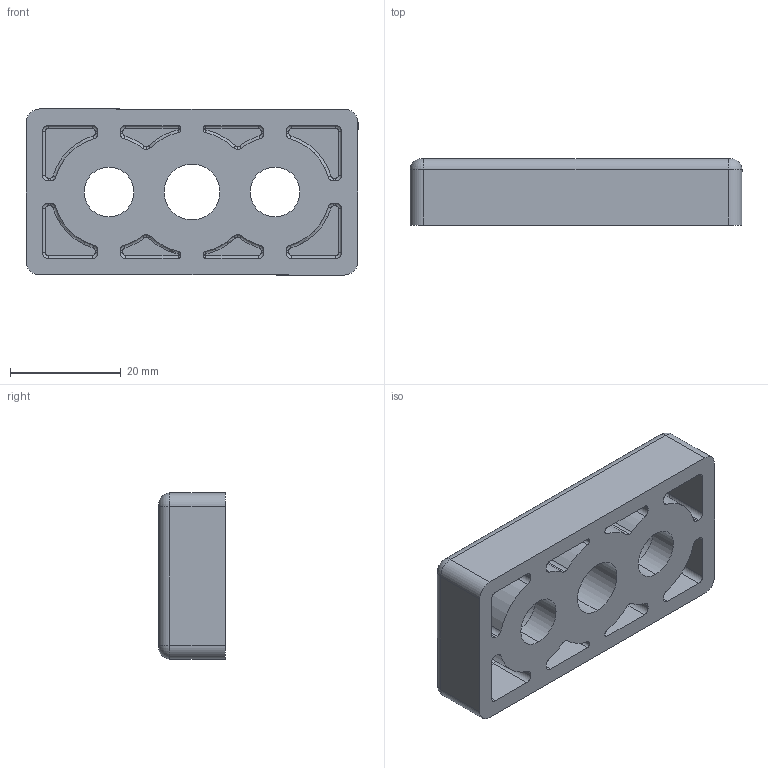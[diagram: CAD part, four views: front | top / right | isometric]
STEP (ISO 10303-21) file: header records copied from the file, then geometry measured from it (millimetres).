
FILE_DESCRIPTION (( 'STEP AP203' ), '1' );
FILE_NAME ('10137_FUS8.6030M12.STEP', '2018-05-24T09:28:10', ( '' ), ( '' ), 'SwSTEP 2.0', 'SolidWorks 2017', '' );
FILE_SCHEMA (( 'CONFIG_CONTROL_DESIGN' ));
Length unit declared in the file: millimetre
Products named in the file (1): 10137_FUS8.6030M12
Bounding box: 60 x 12 x 30 mm (x, y, z)
Volume: 15361.5 mm3; surface area: 8346.2 mm2
Topology: 1 solids, 1 shells, 213 faces, 519 edges, 313 vertices
Faces by surface type: cylinder 100, torus 56, plane 44, sphere 11, cone 2
Entity records: 6321 total; most frequent: CARTESIAN_POINT 1186, DIRECTION 1180, ORIENTED_EDGE 1002, EDGE_CURVE 501, AXIS2_PLACEMENT_3D 491, VERTEX_POINT 301, CIRCLE 278, EDGE_LOOP 228
